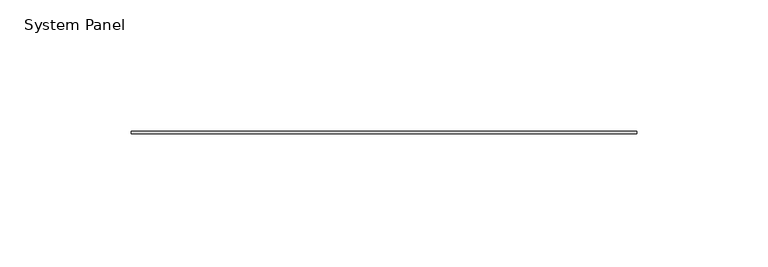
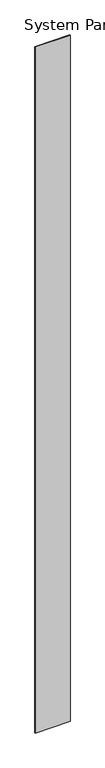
"""IFC4 building model written with IfcOpenShell, lengths in millimetres: plate geometry, System Panel : Stratco_Hiland_Interlock_Panel."""

from ifc_helpers import new_model, si_unit, origin, origin_with_axes, place, context, project, spatial, polyline, outline, extrude, source, transform, mapped, element, save


def system_panel_6667fed8(model_context):
    return source(origin(), model_context, "Body", "SweptSolid", [
        extrude(outline(polyline([(96.5000002, 24.0), (-96.5000002, 24.0), (-96.5000002, 25.0), (96.5000002, 25.0), (96.5000002, 24.0)])), origin_with_axes(), (0.0, 0.0, 1.0), 4000.0),
    ])


if __name__ == "__main__":
    model = new_model("IFC4")
    model_context = context("Model", 3, world=origin())
    ifc_project = project(units=[si_unit("LENGTHUNIT", "METRE", prefix="MILLI")], contexts=[model_context])
    site = spatial("IfcSite", under=ifc_project)
    building = spatial("IfcBuilding", under=site)
    placement = place(None, origin())
    system_panel_shape = system_panel_6667fed8(model_context)
    element("IfcPlate", 1, ObjectType="System Panel : Stratco_Hiland_Interlock_Panel", at=placement, inside=building, context=model_context, shape_type="MappedRepresentation", body=[
        mapped(system_panel_shape, transform((0.0, 0.0, 0.0), x_axis=(1.0, 0.0, 0.0), y_axis=(0.0, 1.0, 0.0), z_axis=(0.0, 0.0, 1.0))),
    ])
    save(model, "model.ifc")
